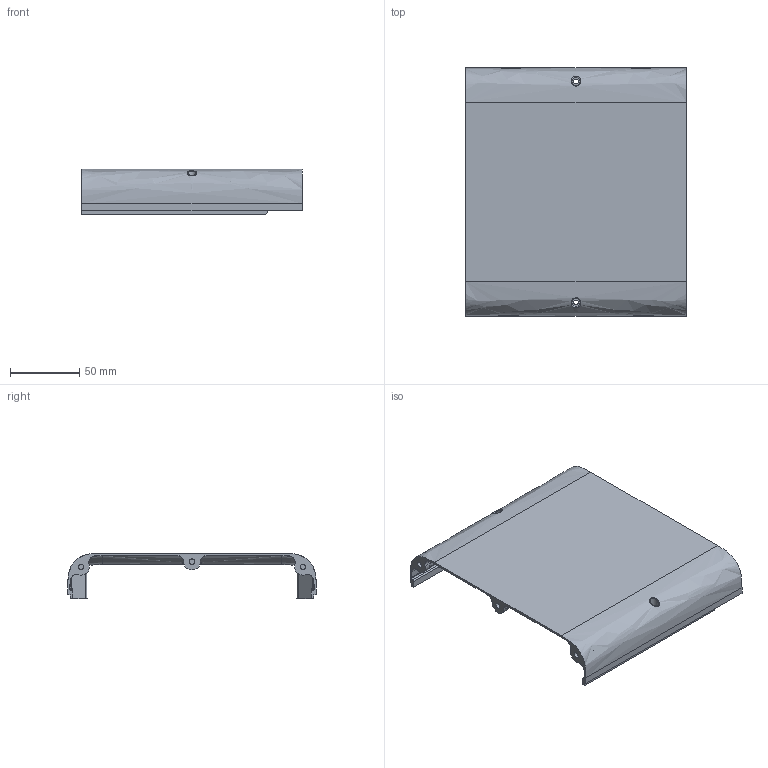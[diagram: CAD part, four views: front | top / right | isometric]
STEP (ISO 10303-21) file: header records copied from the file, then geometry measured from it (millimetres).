
FILE_DESCRIPTION(/* description */ (''),/* implementation_level */ '2;1');
FILE_NAME(/* name */ 'TOP SHELL FRONT.step',/* time_stamp */ '2024-02-28T16:23:35Z',/* author */ (''),/* organization */ (''),/* preprocessor_version */ 'ST-DEVELOPER v20',/* originating_system */ 'Autodesk Translation Framework v12.20.1.177',/* authorisation */ '');
FILE_SCHEMA (('AUTOMOTIVE_DESIGN { 1 0 10303 214 3 1 1 }'));
Length unit declared in the file: millimetre
Products named in the file (1): TOP SHELL FRONT
Bounding box: 160 x 180 x 32.8 mm (x, y, z)
Volume: 80622.5 mm3; surface area: 77968.6 mm2
Topology: 1 solids, 1 shells, 150 faces, 411 edges, 258 vertices
Faces by surface type: bspline 68, cylinder 40, plane 36, torus 6
Full cylindrical faces by diameter (mm): 3.5 x2, 4 x3, 6 x2
Entity records: 8137 total; most frequent: CARTESIAN_POINT 4878, ORIENTED_EDGE 802, DIRECTION 466, EDGE_CURVE 401, VERTEX_POINT 258, B_SPLINE_CURVE_WITH_KNOTS 187, AXIS2_PLACEMENT_3D 179, EDGE_LOOP 159
